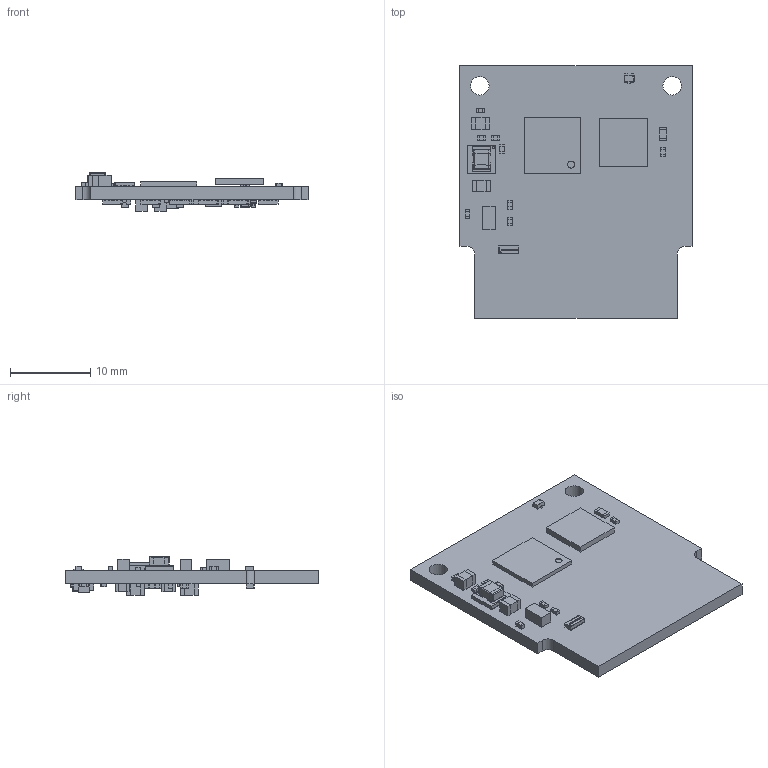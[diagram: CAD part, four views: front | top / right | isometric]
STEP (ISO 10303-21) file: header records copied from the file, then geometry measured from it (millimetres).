
FILE_DESCRIPTION(('Open CASCADE Model'),'2;1');
FILE_NAME('Open CASCADE Shape Model','2018-11-30T15:04:07',('Author'),( 'Open CASCADE'),'Open CASCADE STEP processor 6.8','Open CASCADE 6.8' ,'Unknown');
FILE_SCHEMA(('AUTOMOTIVE_DESIGN { 1 0 10303 214 1 1 1 1 }'));
Length unit declared in the file: millimetre
Products named in the file (123): PCB; Board; R19; 935622232; Extruded; 935622096; R18; 935621960; R17; FL8; Semtech_SLP2510P8; FL7; U9; 935623728; U8; 990154704; Open_CASCADE_STEP_translator_6.8_1.1; Body; Open_CASCADE_STEP_translator_6.8_1.2.1; ball; U7; 935623864; U6; SIP0008A; SOLDERMASK-BTM-SIP; SUBSTRATE-SIP; METAL; BUM-PATTERN_ASM; BUMP-SIP; SOLDERMASK-TOP-SIP; INDTR_ASM; INDTR-BODY-MDT; INDTR-TERMNL-MDT; CAP-GRM155R60J_ASM; CAP-BODY-GRM; CAP-TERMNL-GRM; SOLDER-CAP; SOLDER-IND; U4; MicroSIP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
Assembly tree (385 placements, depth 5):
  PCB
    Board
    R19
      935622232  x2
        Extruded
      935622096
        Extruded
    R18
      935621960  x2
        Extruded
      935622096
        Extruded
    R17
      935622232  x2
        Extruded
      935622096
        Extruded
    FL8
      Semtech_SLP2510P8
    FL7
      Semtech_SLP2510P8
    U9
      935623728
        Extruded
    U8
      990154704
        Open_CASCADE_STEP_translator_6.8_1.1
        Body
          Open_CASCADE_STEP_translator_6.8_1.2.1
        ball  x144
    U7
      935623864
        Extruded
    U6
      SIP0008A
        SOLDERMASK-BTM-SIP
        SUBSTRATE-SIP
        METAL
        BUM-PATTERN_ASM
          BUMP-SIP  x8
        SOLDERMASK-TOP-SIP
        INDTR_ASM
          INDTR-BODY-MDT
          INDTR-TERMNL-MDT  x2
        CAP-GRM155R60J_ASM  x2
          CAP-BODY-GRM
          CAP-TERMNL-GRM
        SOLDER-CAP  x4
        SOLDER-IND  x2
    U4
      MicroSIP
        Open CASCADE STEP translator 6.8 1.11.1.1
        Open CASCADE STEP translator 6.8 1.11.1.2
    R16
      935622232  x2
        Extruded
      935622096
        Extruded
    R15
      935622232  x2
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Bounding box: 29 x 31.5 x 4.84 mm (x, y, z)
Volume: 1551 mm3; surface area: 2757.8 mm2
Topology: 353 solids, 362 shells, 2305 faces, 6393 edges, 4566 vertices
Faces by surface type: plane 1571, cylinder 345, sphere 234, bspline 79, torus 76
Full cylindrical faces by diameter (mm): 0.106 x1, 0.875 x1, 2.3 x2
Entity records: 30186 total; most frequent: CARTESIAN_POINT 8932, DIRECTION 3371, ORIENTED_EDGE 3321, EDGE_CURVE 1699, AXIS2_PLACEMENT_3D 1214, VERTEX_POINT 1184, LINE 943, VECTOR 943
